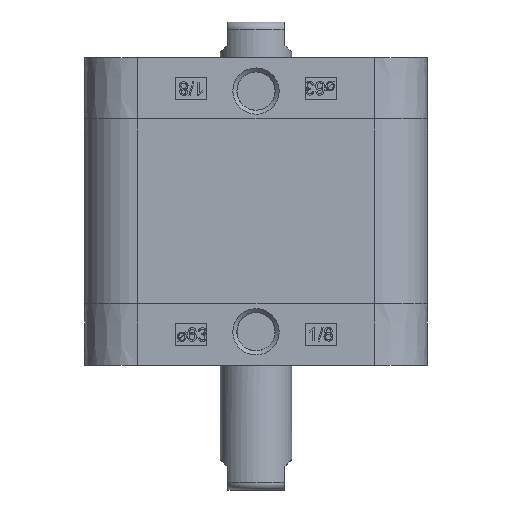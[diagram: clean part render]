
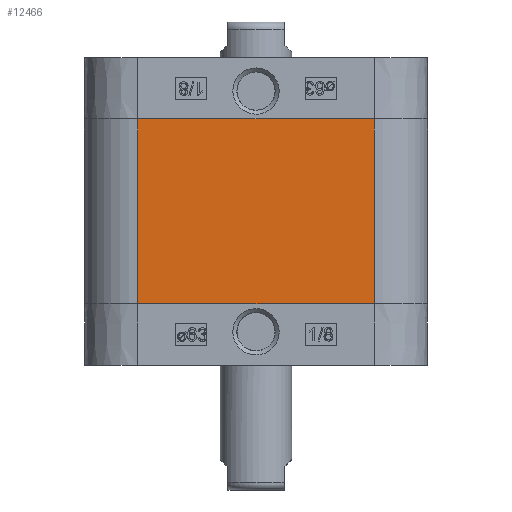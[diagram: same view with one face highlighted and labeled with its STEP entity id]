
A CAD part, left-side view. The second image highlights one B-rep face of the part: STEP entity #12466.
In plain terms, the highlighted planar face has unit normal (-1, 0, 0).
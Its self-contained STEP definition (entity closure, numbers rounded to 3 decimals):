
#781=LINE('',#22117,#1869);
#835=LINE('',#22341,#1923);
#889=LINE('',#22566,#1977);
#890=LINE('',#22567,#1978);
#1869=VECTOR('',#18780,1000.);
#1923=VECTOR('',#18952,1000.);
#1977=VECTOR('',#19124,1000.);
#1978=VECTOR('',#19125,1000.);
#3183=ORIENTED_EDGE('',*,*,#6675,.T.);
#3184=ORIENTED_EDGE('',*,*,#6899,.F.);
#3185=ORIENTED_EDGE('',*,*,#6787,.T.);
#3186=ORIENTED_EDGE('',*,*,#6900,.T.);
#6675=EDGE_CURVE('',#8534,#8532,#781,.T.);
#6787=EDGE_CURVE('',#8645,#8646,#835,.T.);
#6899=EDGE_CURVE('',#8645,#8532,#889,.T.);
#6900=EDGE_CURVE('',#8646,#8534,#890,.T.);
#8532=VERTEX_POINT('',#22115);
#8534=VERTEX_POINT('',#22118);
#8645=VERTEX_POINT('',#22342);
#8646=VERTEX_POINT('',#22343);
#10258=EDGE_LOOP('',(#3183,#3184,#3185,#3186));
#11190=FACE_BOUND('',#10258,.T.);
#12121=PLANE('',#17768);
#12466=ADVANCED_FACE('',(#11190),#12121,.T.);
#17768=AXIS2_PLACEMENT_3D('',#22565,#19122,#19123);
#18780=DIRECTION('',(0.,1.,0.));
#18952=DIRECTION('',(0.,-1.,0.));
#19122=DIRECTION('',(-1.,0.,0.));
#19123=DIRECTION('',(0.,0.,1.));
#19124=DIRECTION('',(0.,0.,1.));
#19125=DIRECTION('',(0.,0.,1.));
#22115=CARTESIAN_POINT('',(-38.5,26.5,36.5));
#22117=CARTESIAN_POINT('',(-38.5,-26.5,36.5));
#22118=CARTESIAN_POINT('',(-38.5,-26.5,36.5));
#22341=CARTESIAN_POINT('',(-38.5,26.5,-5.));
#22342=CARTESIAN_POINT('',(-38.5,26.5,-5.));
#22343=CARTESIAN_POINT('',(-38.5,-26.5,-5.));
#22565=CARTESIAN_POINT('',(-38.5,-26.5,0.));
#22566=CARTESIAN_POINT('',(-38.5,26.5,0.));
#22567=CARTESIAN_POINT('',(-38.5,-26.5,0.));
